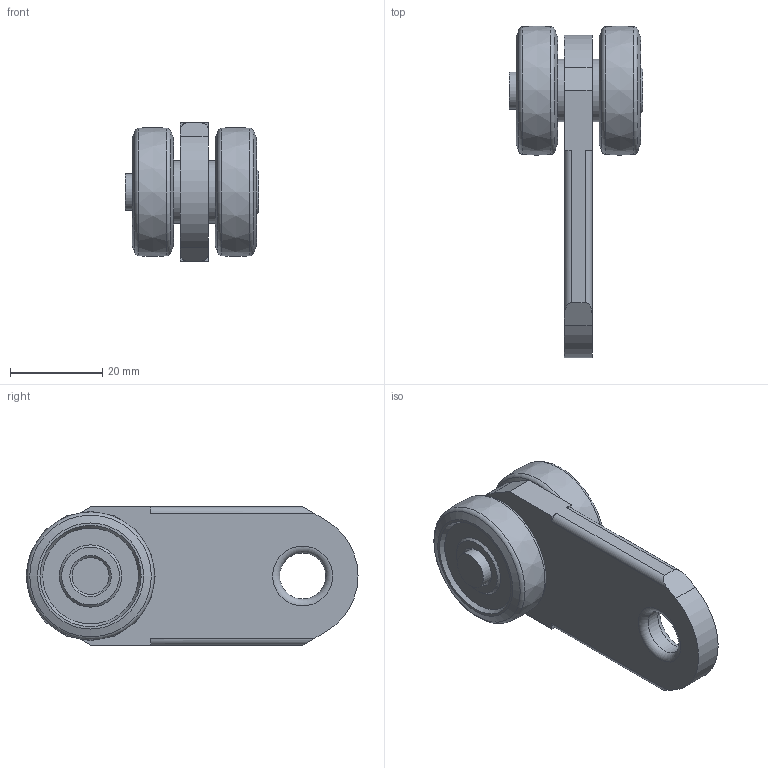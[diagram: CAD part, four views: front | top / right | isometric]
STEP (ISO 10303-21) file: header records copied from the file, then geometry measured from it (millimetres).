
FILE_DESCRIPTION(/* description */ ('Bolzen'),/* implementation_level */ '2;1');
FILE_NAME(/* name */ 'Q:\sge-ma\Produktmanagement-STB\STB\Workspace\stp\010336810.stp',/* time_stamp */ '2016-07-15T12:56:09+02:00',/* author */ ('avschreier'),/* organization */ (''),/* preprocessor_version */ 'ST-DEVELOPER v16.1',/* originating_system */ 'Autodesk Inventor 2016',/* authorisation */ '');
FILE_SCHEMA (('AUTOMOTIVE_DESIGN { 1 0 10303 214 3 1 1 }'));
Length unit declared in the file: millimetre
Products named in the file (5): 000304011; 000226092; 000336810; 000303235; 010336810
Assembly tree (6 placements, depth 2):
  010336810
    000304011
    000226092  x2
    000336810
    000303235  x2
Bounding box: 29 x 72 x 30 mm (x, y, z)
Volume: 20902.1 mm3; surface area: 10316.9 mm2
Topology: 6 solids, 6 shells, 73 faces, 146 edges, 94 vertices
Faces by surface type: plane 31, cone 17, cylinder 16, torus 7, bspline 2
Full cylindrical faces by diameter (mm): 8 x3, 8.1 x1, 8.5 x2, 10 x2, 13.5 x2
Entity records: 1419 total; most frequent: DIRECTION 254, CARTESIAN_POINT 243, ORIENTED_EDGE 170, AXIS2_PLACEMENT_3D 109, EDGE_LOOP 85, EDGE_CURVE 85, VERTEX_POINT 68, FACE_OUTER_BOUND 51
